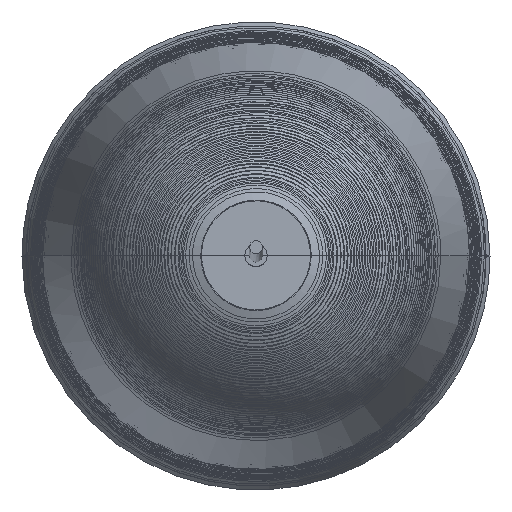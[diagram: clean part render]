
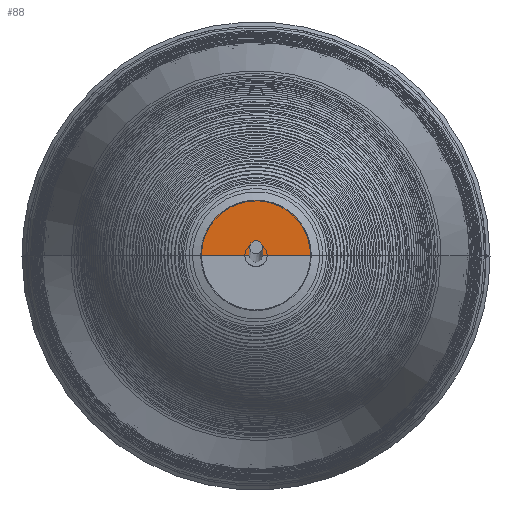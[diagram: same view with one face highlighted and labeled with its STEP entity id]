
A CAD part, top view. The second image highlights one B-rep face of the part: STEP entity #88.
In plain terms, the highlighted free-form (B-spline) face has degree [2, 1] with [9, 2] control points.
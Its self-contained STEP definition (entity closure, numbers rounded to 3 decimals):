
#88=ADVANCED_FACE('',(#322),#4766,.T.);
#322=FACE_OUTER_BOUND('',#556,.T.);
#556=EDGE_LOOP('',(#960,#961,#962));
#960=ORIENTED_EDGE('',*,*,#3997,.F.);
#961=ORIENTED_EDGE('',*,*,#4161,.T.);
#962=ORIENTED_EDGE('',*,*,#3995,.F.);
#1665=PCURVE('',#4710,#2593);
#1667=PCURVE('',#4710,#2595);
#1888=PCURVE('',#4766,#2816);
#1889=PCURVE('',#4766,#2817);
#1890=PCURVE('',#4766,#2818);
#1891=PCURVE('',#4767,#2819);
#2593=DEFINITIONAL_REPRESENTATION('',(#5214),#15882);
#2595=DEFINITIONAL_REPRESENTATION('',(#5217),#15882);
#2816=DEFINITIONAL_REPRESENTATION('',(#5546),#15882);
#2817=DEFINITIONAL_REPRESENTATION('',(#5547),#15882);
#2818=DEFINITIONAL_REPRESENTATION('',(#5548),#15882);
#2819=DEFINITIONAL_REPRESENTATION('',(#5549),#15882);
#3521=SURFACE_CURVE('',#5213,(#1665,#1890),.PCURVE_S1.);
#3523=SURFACE_CURVE('',#5216,(#1667,#1888),.PCURVE_S1.);
#3687=SURFACE_CURVE('',#5000,(#1889,#1891),.PCURVE_S1.);
#3995=EDGE_CURVE('',#4465,#4524,#3521,.T.);
#3997=EDGE_CURVE('',#4521,#4465,#3523,.T.);
#4161=EDGE_CURVE('',#4521,#4524,#3687,.T.);
#4465=VERTEX_POINT('',#8905);
#4521=VERTEX_POINT('',#8961);
#4524=VERTEX_POINT('',#8964);
#4710=(
BOUNDED_SURFACE()
B_SPLINE_SURFACE(2,1,((#6907,#6908),(#6909,#6910),(#6911,#6912),(#6913,#6914),
(#6915,#6916),(#6917,#6918),(#6919,#6920),(#6921,#6922),(#6923,#6924)),
 .UNSPECIFIED.,.T.,.F.,.F.)
B_SPLINE_SURFACE_WITH_KNOTS((3,2,2,2,3),(2,2),(0.,55.322,110.643,
165.965,221.287),(-219.287,-194.522),
 .UNSPECIFIED.)
GEOMETRIC_REPRESENTATION_ITEM()
RATIONAL_B_SPLINE_SURFACE(((1.,1.),(0.707,0.707),
(1.,1.),(0.707,0.707),(1.,1.),(0.707,
0.707),(1.,1.),(0.707,0.707),(1.,1.)))
REPRESENTATION_ITEM('')
SURFACE()
);
#4766=(
BOUNDED_SURFACE()
B_SPLINE_SURFACE(2,1,((#7915,#7916),(#7917,#7918),(#7919,#7920),(#7921,#7922),
(#7923,#7924),(#7925,#7926),(#7927,#7928),(#7929,#7930),(#7931,#7932)),
 .UNSPECIFIED.,.T.,.F.,.F.)
B_SPLINE_SURFACE_WITH_KNOTS((3,2,2,2,3),(2,2),(0.,55.322,110.643,
165.965,221.287),(-219.287,-194.522),
 .UNSPECIFIED.)
GEOMETRIC_REPRESENTATION_ITEM()
RATIONAL_B_SPLINE_SURFACE(((1.,1.),(0.707,0.707),
(1.,1.),(0.707,0.707),(1.,1.),(0.707,
0.707),(1.,1.),(0.707,0.707),(1.,1.)))
REPRESENTATION_ITEM('')
SURFACE()
);
#4767=(
BOUNDED_SURFACE()
B_SPLINE_SURFACE(2,1,((#7933,#7934),(#7935,#7936),(#7937,#7938),(#7939,#7940),
(#7941,#7942),(#7943,#7944),(#7945,#7946),(#7947,#7948),(#7949,#7950)),
 .UNSPECIFIED.,.T.,.F.,.F.)
B_SPLINE_SURFACE_WITH_KNOTS((3,2,2,2,3),(2,2),(0.,55.322,110.643,
165.965,221.287),(-194.522,-192.522),
 .UNSPECIFIED.)
GEOMETRIC_REPRESENTATION_ITEM()
RATIONAL_B_SPLINE_SURFACE(((1.,1.),(0.707,0.707),
(1.,1.),(0.707,0.707),(1.,1.),(0.707,
0.707),(1.,1.),(0.707,0.707),(1.,1.)))
REPRESENTATION_ITEM('')
SURFACE()
);
#5000=(
BOUNDED_CURVE()
B_SPLINE_CURVE(2,(#9988,#9989,#9990,#9991,#9992),.UNSPECIFIED.,.F.,.F.)
B_SPLINE_CURVE_WITH_KNOTS((3,2,3),(-221.287,-165.965,-110.643),
 .UNSPECIFIED.)
CURVE()
GEOMETRIC_REPRESENTATION_ITEM()
RATIONAL_B_SPLINE_CURVE((1.,0.707,1.,0.707,1.))
REPRESENTATION_ITEM('')
);
#5213=B_SPLINE_CURVE_WITH_KNOTS('',1,(#9040,#9041),.UNSPECIFIED.,.F.,.F.,
(2,2),(-219.287,-194.522),.UNSPECIFIED.);
#5214=B_SPLINE_CURVE_WITH_KNOTS('',1,(#9042,#9043),.UNSPECIFIED.,.F.,.F.,
(2,2),(-219.287,-194.522),.UNSPECIFIED.);
#5216=B_SPLINE_CURVE_WITH_KNOTS('',1,(#9051,#9052),.UNSPECIFIED.,.F.,.F.,
(2,2),(194.522,219.287),.UNSPECIFIED.);
#5217=B_SPLINE_CURVE_WITH_KNOTS('',1,(#9053,#9054),.UNSPECIFIED.,.F.,.F.,
(2,2),(194.522,219.287),.UNSPECIFIED.);
#5546=B_SPLINE_CURVE_WITH_KNOTS('',1,(#9986,#9987),.UNSPECIFIED.,.F.,.F.,
(2,2),(194.522,219.287),.UNSPECIFIED.);
#5547=B_SPLINE_CURVE_WITH_KNOTS('',1,(#9993,#9994),.UNSPECIFIED.,.F.,.F.,
(2,2),(-221.287,-110.643),.UNSPECIFIED.);
#5548=B_SPLINE_CURVE_WITH_KNOTS('',1,(#9995,#9996),.UNSPECIFIED.,.F.,.F.,
(2,2),(-219.287,-194.522),.UNSPECIFIED.);
#5549=B_SPLINE_CURVE_WITH_KNOTS('',1,(#9997,#9998),.UNSPECIFIED.,.F.,.F.,
(2,2),(-221.287,-110.643),.UNSPECIFIED.);
#6907=CARTESIAN_POINT('',(-7118.985,2359.954,574.625));
#6908=CARTESIAN_POINT('',(-7143.751,2359.954,574.625));
#6909=CARTESIAN_POINT('',(-7118.985,2359.954,574.625));
#6910=CARTESIAN_POINT('',(-7143.751,2335.188,574.625));
#6911=CARTESIAN_POINT('',(-7118.985,2359.954,574.625));
#6912=CARTESIAN_POINT('',(-7118.985,2335.188,574.625));
#6913=CARTESIAN_POINT('',(-7118.985,2359.954,574.625));
#6914=CARTESIAN_POINT('',(-7094.22,2335.188,574.625));
#6915=CARTESIAN_POINT('',(-7118.985,2359.954,574.625));
#6916=CARTESIAN_POINT('',(-7094.22,2359.954,574.625));
#6917=CARTESIAN_POINT('',(-7118.985,2359.954,574.625));
#6918=CARTESIAN_POINT('',(-7094.22,2384.719,574.625));
#6919=CARTESIAN_POINT('',(-7118.985,2359.954,574.625));
#6920=CARTESIAN_POINT('',(-7118.985,2384.719,574.625));
#6921=CARTESIAN_POINT('',(-7118.985,2359.954,574.625));
#6922=CARTESIAN_POINT('',(-7143.751,2384.719,574.625));
#6923=CARTESIAN_POINT('',(-7118.985,2359.954,574.625));
#6924=CARTESIAN_POINT('',(-7143.751,2359.954,574.625));
#7915=CARTESIAN_POINT('',(-7118.985,2359.954,574.625));
#7916=CARTESIAN_POINT('',(-7143.751,2359.954,574.625));
#7917=CARTESIAN_POINT('',(-7118.985,2359.954,574.625));
#7918=CARTESIAN_POINT('',(-7143.751,2335.188,574.625));
#7919=CARTESIAN_POINT('',(-7118.985,2359.954,574.625));
#7920=CARTESIAN_POINT('',(-7118.985,2335.188,574.625));
#7921=CARTESIAN_POINT('',(-7118.985,2359.954,574.625));
#7922=CARTESIAN_POINT('',(-7094.22,2335.188,574.625));
#7923=CARTESIAN_POINT('',(-7118.985,2359.954,574.625));
#7924=CARTESIAN_POINT('',(-7094.22,2359.954,574.625));
#7925=CARTESIAN_POINT('',(-7118.985,2359.954,574.625));
#7926=CARTESIAN_POINT('',(-7094.22,2384.719,574.625));
#7927=CARTESIAN_POINT('',(-7118.985,2359.954,574.625));
#7928=CARTESIAN_POINT('',(-7118.985,2384.719,574.625));
#7929=CARTESIAN_POINT('',(-7118.985,2359.954,574.625));
#7930=CARTESIAN_POINT('',(-7143.751,2384.719,574.625));
#7931=CARTESIAN_POINT('',(-7118.985,2359.954,574.625));
#7932=CARTESIAN_POINT('',(-7143.751,2359.954,574.625));
#7933=CARTESIAN_POINT('',(-7143.751,2359.954,574.625));
#7934=CARTESIAN_POINT('',(-7143.751,2359.954,572.625));
#7935=CARTESIAN_POINT('',(-7143.751,2335.188,574.625));
#7936=CARTESIAN_POINT('',(-7143.751,2335.188,572.625));
#7937=CARTESIAN_POINT('',(-7118.985,2335.188,574.625));
#7938=CARTESIAN_POINT('',(-7118.985,2335.188,572.625));
#7939=CARTESIAN_POINT('',(-7094.22,2335.188,574.625));
#7940=CARTESIAN_POINT('',(-7094.22,2335.188,572.625));
#7941=CARTESIAN_POINT('',(-7094.22,2359.954,574.625));
#7942=CARTESIAN_POINT('',(-7094.22,2359.954,572.625));
#7943=CARTESIAN_POINT('',(-7094.22,2384.719,574.625));
#7944=CARTESIAN_POINT('',(-7094.22,2384.719,572.625));
#7945=CARTESIAN_POINT('',(-7118.985,2384.719,574.625));
#7946=CARTESIAN_POINT('',(-7118.985,2384.719,572.625));
#7947=CARTESIAN_POINT('',(-7143.751,2384.719,574.625));
#7948=CARTESIAN_POINT('',(-7143.751,2384.719,572.625));
#7949=CARTESIAN_POINT('',(-7143.751,2359.954,574.625));
#7950=CARTESIAN_POINT('',(-7143.751,2359.954,572.625));
#8905=CARTESIAN_POINT('',(-7118.985,2359.954,574.625));
#8961=CARTESIAN_POINT('',(-7143.751,2359.954,574.625));
#8964=CARTESIAN_POINT('',(-7094.22,2359.954,574.625));
#9040=CARTESIAN_POINT('',(-7118.985,2359.954,574.625));
#9041=CARTESIAN_POINT('',(-7094.22,2359.954,574.625));
#9042=CARTESIAN_POINT('',(110.643,-219.287));
#9043=CARTESIAN_POINT('',(110.643,-194.522));
#9051=CARTESIAN_POINT('',(-7143.751,2359.954,574.625));
#9052=CARTESIAN_POINT('',(-7118.985,2359.954,574.625));
#9053=CARTESIAN_POINT('',(0.,-194.522));
#9054=CARTESIAN_POINT('',(0.,-219.287));
#9986=CARTESIAN_POINT('',(221.287,-194.522));
#9987=CARTESIAN_POINT('',(221.287,-219.287));
#9988=CARTESIAN_POINT('',(-7143.751,2359.954,574.625));
#9989=CARTESIAN_POINT('',(-7143.751,2384.719,574.625));
#9990=CARTESIAN_POINT('',(-7118.985,2384.719,574.625));
#9991=CARTESIAN_POINT('',(-7094.22,2384.719,574.625));
#9992=CARTESIAN_POINT('',(-7094.22,2359.954,574.625));
#9993=CARTESIAN_POINT('',(221.287,-194.522));
#9994=CARTESIAN_POINT('',(110.643,-194.522));
#9995=CARTESIAN_POINT('',(110.643,-219.287));
#9996=CARTESIAN_POINT('',(110.643,-194.522));
#9997=CARTESIAN_POINT('',(221.287,-194.522));
#9998=CARTESIAN_POINT('',(110.643,-194.522));
#15882=(
GEOMETRIC_REPRESENTATION_CONTEXT(2)
PARAMETRIC_REPRESENTATION_CONTEXT()
REPRESENTATION_CONTEXT('pspace','')
);
